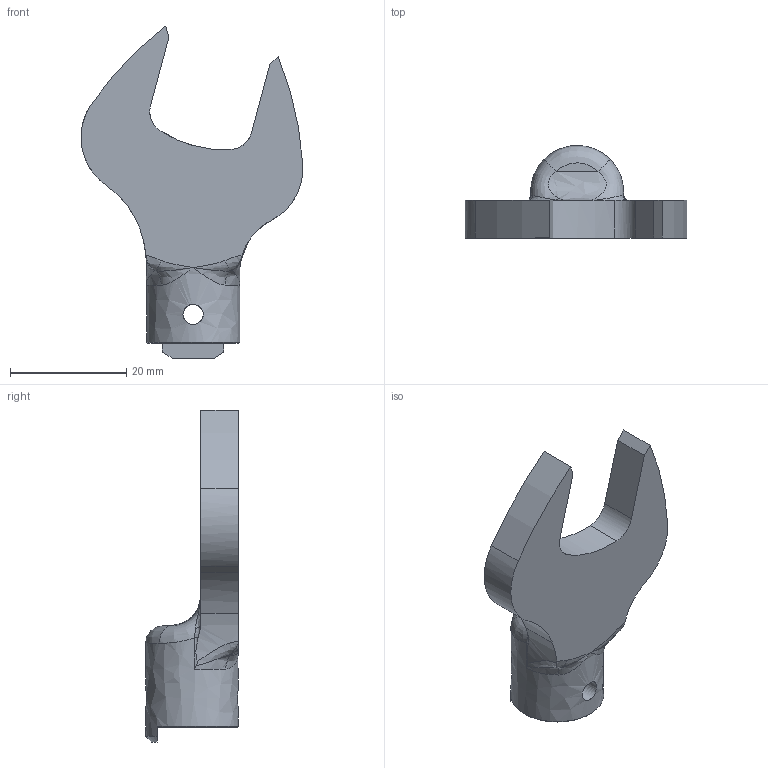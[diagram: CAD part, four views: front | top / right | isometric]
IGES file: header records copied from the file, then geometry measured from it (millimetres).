
Global section: file name: SH10DX18; native system: Autodesk Inventor 2016; preprocessor: unknown; author: Q600; date: 20151029.185422; units: millimetre
Bounding box: 38.21 x 16 x 57.18 mm (x, y, z)
Volume: 7553.7 mm3; surface area: 4245.6 mm2
Topology: 1 solids, 1 shells, 54 faces, 156 edges, 97 vertices
Faces by surface type: bspline 54
